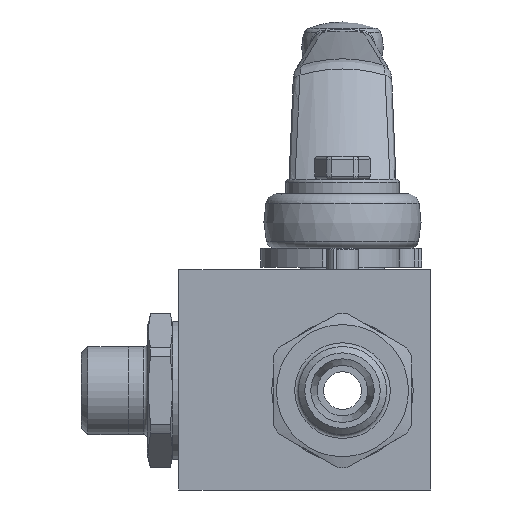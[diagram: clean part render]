
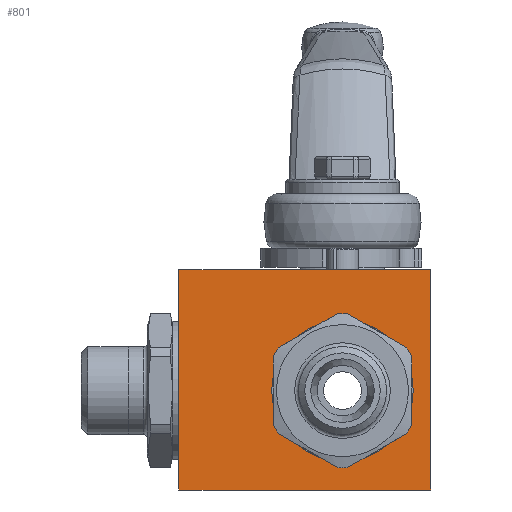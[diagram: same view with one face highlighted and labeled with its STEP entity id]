
A CAD part, front view. The second image highlights one B-rep face of the part: STEP entity #801.
In plain terms, the highlighted planar face has unit normal (0, -1, 0).
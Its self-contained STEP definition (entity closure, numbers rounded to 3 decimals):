
#801 = ADVANCED_FACE( '', ( #1760, #1761 ), #1762, .T. );
#1760 = FACE_OUTER_BOUND( '', #3308, .T. );
#1761 = FACE_BOUND( '', #3309, .T. );
#1762 = PLANE( '', #3310 );
#3308 = EDGE_LOOP( '', ( #5702, #5703, #5704, #5705 ) );
#3309 = EDGE_LOOP( '', ( #5706 ) );
#3310 = AXIS2_PLACEMENT_3D( '', #5707, #5708, #5709 );
#5702 = ORIENTED_EDGE( '', *, *, #8346, .T. );
#5703 = ORIENTED_EDGE( '', *, *, #7954, .T. );
#5704 = ORIENTED_EDGE( '', *, *, #8347, .T. );
#5705 = ORIENTED_EDGE( '', *, *, #8348, .T. );
#5706 = ORIENTED_EDGE( '', *, *, #8313, .T. );
#5707 = CARTESIAN_POINT( '', ( -26., -17.5, -15.8 ) );
#5708 = DIRECTION( '', ( 0., -1., 0. ) );
#5709 = DIRECTION( '', ( 0., 0., -1. ) );
#7954 = EDGE_CURVE( '', #9194, #9192, #9195, .T. );
#8313 = EDGE_CURVE( '', #9784, #9784, #9785, .T. );
#8346 = EDGE_CURVE( '', #9838, #9194, #9839, .T. );
#8347 = EDGE_CURVE( '', #9192, #9840, #9841, .T. );
#8348 = EDGE_CURVE( '', #9840, #9838, #9842, .T. );
#9192 = VERTEX_POINT( '', #11087 );
#9194 = VERTEX_POINT( '', #11090 );
#9195 = LINE( '', #11091, #11092 );
#9784 = VERTEX_POINT( '', #12358 );
#9785 = CIRCLE( '', #12359, 11.25 );
#9838 = VERTEX_POINT( '', #12445 );
#9839 = LINE( '', #12446, #12447 );
#9840 = VERTEX_POINT( '', #12448 );
#9841 = LINE( '', #12449, #12450 );
#9842 = LINE( '', #12451, #12452 );
#11087 = CARTESIAN_POINT( '', ( 14., -17.5, -15.8 ) );
#11090 = CARTESIAN_POINT( '', ( -26., -17.5, -15.8 ) );
#11091 = CARTESIAN_POINT( '', ( -26., -17.5, -15.8 ) );
#11092 = VECTOR( '', #14421, 1000. );
#12358 = CARTESIAN_POINT( '', ( 11.25, -17.5, 0. ) );
#12359 = AXIS2_PLACEMENT_3D( '', #14902, #14903, #14904 );
#12445 = CARTESIAN_POINT( '', ( -26., -17.5, 19.2 ) );
#12446 = CARTESIAN_POINT( '', ( -26., -17.5, 19.2 ) );
#12447 = VECTOR( '', #14936, 1000. );
#12448 = CARTESIAN_POINT( '', ( 14., -17.5, 19.2 ) );
#12449 = CARTESIAN_POINT( '', ( 14., -17.5, -15.8 ) );
#12450 = VECTOR( '', #14937, 1000. );
#12451 = CARTESIAN_POINT( '', ( 14., -17.5, 19.2 ) );
#12452 = VECTOR( '', #14938, 1000. );
#14421 = DIRECTION( '', ( 1., 0., 0. ) );
#14902 = CARTESIAN_POINT( '', ( 0., -17.5, 0. ) );
#14903 = DIRECTION( '', ( 0., 1., 0. ) );
#14904 = DIRECTION( '', ( 1., 0., 0. ) );
#14936 = DIRECTION( '', ( 0., 0., -1. ) );
#14937 = DIRECTION( '', ( 0., 0., 1. ) );
#14938 = DIRECTION( '', ( -1., 0., 0. ) );
